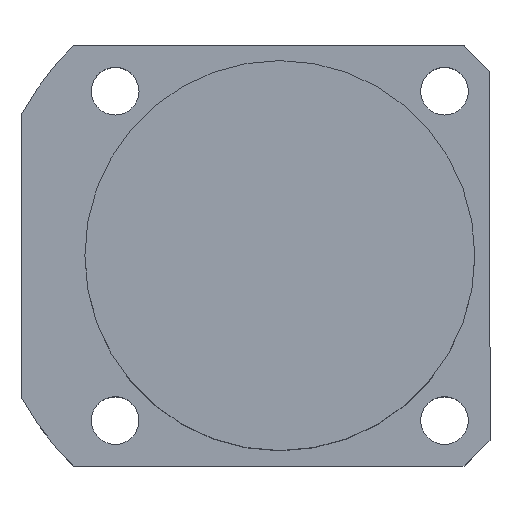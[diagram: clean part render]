
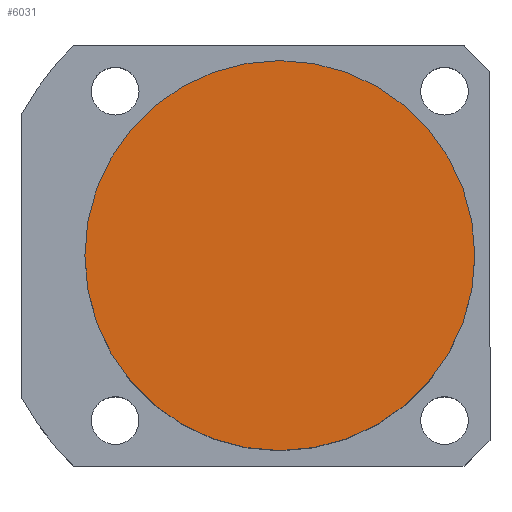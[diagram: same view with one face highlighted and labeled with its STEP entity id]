
A CAD part, top view. The second image highlights one B-rep face of the part: STEP entity #6031.
In plain terms, the highlighted planar face has unit normal (0, 0, 1).
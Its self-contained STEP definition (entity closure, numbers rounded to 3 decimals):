
#205 = DIRECTION ( 'NONE',  ( 0., 0., 1. ) ) ;
#461 = VERTEX_POINT ( 'NONE', #2331 ) ;
#1186 = VERTEX_POINT ( 'NONE', #4993 ) ;
#1500 = DIRECTION ( 'NONE',  ( 0., 0., 1. ) ) ;
#1988 = EDGE_CURVE ( 'NONE', #1186, #461, #5822, .T. ) ;
#2074 = DIRECTION ( 'NONE',  ( 0., 0., 1. ) ) ;
#2278 = AXIS2_PLACEMENT_3D ( 'NONE', #3678, #2074, #5883 ) ;
#2324 = CIRCLE ( 'NONE', #5371, 45. ) ;
#2331 = CARTESIAN_POINT ( 'NONE',  ( 45., 0., 54.5 ) ) ;
#2981 = ORIENTED_EDGE ( 'NONE', *, *, #6022, .T. ) ;
#3515 = CARTESIAN_POINT ( 'NONE',  ( 0., 0., 54.5 ) ) ;
#3678 = CARTESIAN_POINT ( 'NONE',  ( 0., 0., 54.5 ) ) ;
#3938 = EDGE_LOOP ( 'NONE', ( #6048, #2981 ) ) ;
#4071 = DIRECTION ( 'NONE',  ( 1., 0., 0. ) ) ;
#4786 = CARTESIAN_POINT ( 'NONE',  ( 0., 0., 54.5 ) ) ;
#4853 = AXIS2_PLACEMENT_3D ( 'NONE', #3515, #205, #4071 ) ;
#4907 = FACE_OUTER_BOUND ( 'NONE', #3938, .T. ) ;
#4993 = CARTESIAN_POINT ( 'NONE',  ( -45., 0., 54.5 ) ) ;
#5316 = DIRECTION ( 'NONE',  ( 1., 0., 0. ) ) ;
#5342 = PLANE ( 'NONE',  #2278 ) ;
#5371 = AXIS2_PLACEMENT_3D ( 'NONE', #4786, #1500, #5316 ) ;
#5822 = CIRCLE ( 'NONE', #4853, 45. ) ;
#5883 = DIRECTION ( 'NONE',  ( 1., 0., 0. ) ) ;
#6022 = EDGE_CURVE ( 'NONE', #461, #1186, #2324, .T. ) ;
#6031 = ADVANCED_FACE ( 'NONE', ( #4907 ), #5342, .T. ) ;
#6048 = ORIENTED_EDGE ( 'NONE', *, *, #1988, .T. ) ;
